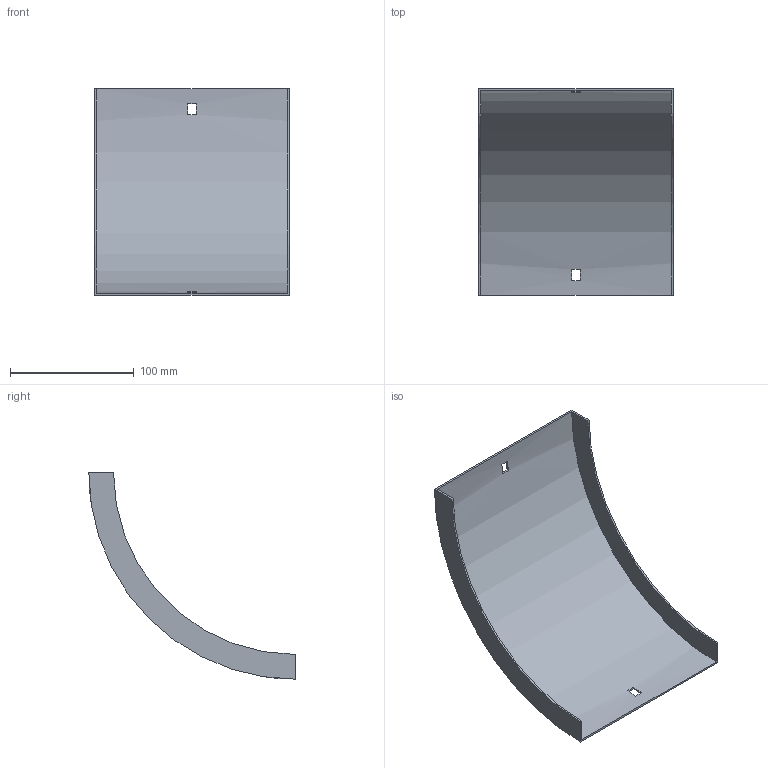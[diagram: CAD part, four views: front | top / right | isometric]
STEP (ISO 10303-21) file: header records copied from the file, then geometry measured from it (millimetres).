
FILE_DESCRIPTION (( 'STEP AP214' ), '1' );
FILE_NAME ('33N1H150.step', '2025-02-21T09:18:32', ( '' ), ( '' ), 'SwSTEP 2.0', 'SolidWorks 2023', '' );
FILE_SCHEMA (( 'AUTOMOTIVE_DESIGN' ));
Length unit declared in the file: millimetre
Products named in the file (1): 33N1H150
Bounding box: 157 x 167 x 167 mm (x, y, z)
Volume: 74945 mm3; surface area: 101298.4 mm2
Topology: 1 solids, 1 shells, 18 faces, 48 edges, 32 vertices
Faces by surface type: plane 14, cylinder 4
Entity records: 599 total; most frequent: DIRECTION 102, CARTESIAN_POINT 99, ORIENTED_EDGE 96, EDGE_CURVE 48, AXIS2_PLACEMENT_3D 35, VECTOR 32, LINE 32, VERTEX_POINT 32
